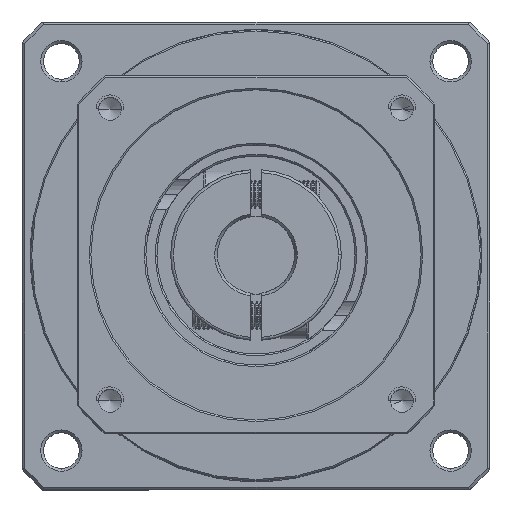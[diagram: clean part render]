
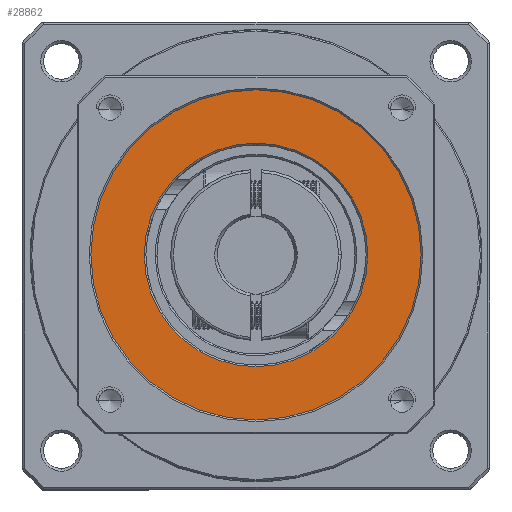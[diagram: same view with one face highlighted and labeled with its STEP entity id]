
A CAD part, top view. The second image highlights one B-rep face of the part: STEP entity #28862.
In plain terms, the highlighted planar face has unit normal (0, 0, 1).
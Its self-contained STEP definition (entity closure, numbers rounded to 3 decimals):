
#832 = VERTEX_POINT ( 'NONE', #49615 ) ;
#1617 = ORIENTED_EDGE ( 'NONE', *, *, #113908, .T. ) ;
#3975 = VERTEX_POINT ( 'NONE', #83340 ) ;
#9331 = EDGE_LOOP ( 'NONE', ( #56970, #97137 ) ) ;
#28862 = ADVANCED_FACE ( 'NONE', ( #65736, #41056 ), #73748, .T. ) ;
#31447 = DIRECTION ( 'NONE',  ( 0., 0., -1. ) ) ;
#33377 = DIRECTION ( 'NONE',  ( 0., 0., -1. ) ) ;
#37489 = AXIS2_PLACEMENT_3D ( 'NONE', #105164, #49682, #114390 ) ;
#38226 = AXIS2_PLACEMENT_3D ( 'NONE', #55397, #119958, #64690 ) ;
#41056 = FACE_OUTER_BOUND ( 'NONE', #115589, .T. ) ;
#46116 = CARTESIAN_POINT ( 'NONE',  ( -63.221, 21.659, 10.244 ) ) ;
#47156 = CIRCLE ( 'NONE', #92841, 20.3 ) ;
#49615 = CARTESIAN_POINT ( 'NONE',  ( -83.521, 21.659, 10.244 ) ) ;
#49682 = DIRECTION ( 'NONE',  ( 0., 0., 1. ) ) ;
#55397 = CARTESIAN_POINT ( 'NONE',  ( -63.221, 21.659, 10.244 ) ) ;
#55470 = DIRECTION ( 'NONE',  ( 1., 0., 0. ) ) ;
#56066 = EDGE_CURVE ( 'NONE', #832, #3975, #81583, .T. ) ;
#56970 = ORIENTED_EDGE ( 'NONE', *, *, #72230, .T. ) ;
#61620 = CARTESIAN_POINT ( 'NONE',  ( -33.221, 21.659, 10.244 ) ) ;
#64690 = DIRECTION ( 'NONE',  ( 1., 0., 0. ) ) ;
#65736 = FACE_BOUND ( 'NONE', #9331, .T. ) ;
#65933 = CIRCLE ( 'NONE', #38226, 30. ) ;
#72230 = EDGE_CURVE ( 'NONE', #3975, #832, #47156, .T. ) ;
#72881 = CIRCLE ( 'NONE', #37489, 30. ) ;
#73748 = PLANE ( 'NONE',  #115283 ) ;
#81583 = CIRCLE ( 'NONE', #98698, 20.3 ) ;
#83340 = CARTESIAN_POINT ( 'NONE',  ( -42.921, 21.659, 10.244 ) ) ;
#86295 = CARTESIAN_POINT ( 'NONE',  ( -93.221, 21.659, 10.244 ) ) ;
#87051 = CARTESIAN_POINT ( 'NONE',  ( -63.221, 21.659, 10.244 ) ) ;
#88969 = CARTESIAN_POINT ( 'NONE',  ( -63.221, 21.659, 10.244 ) ) ;
#92841 = AXIS2_PLACEMENT_3D ( 'NONE', #87051, #31447, #96325 ) ;
#96325 = DIRECTION ( 'NONE',  ( 1., 0., 0. ) ) ;
#97137 = ORIENTED_EDGE ( 'NONE', *, *, #56066, .T. ) ;
#98208 = DIRECTION ( 'NONE',  ( 1., 0., 0. ) ) ;
#98698 = AXIS2_PLACEMENT_3D ( 'NONE', #88969, #33377, #98208 ) ;
#103948 = VERTEX_POINT ( 'NONE', #86295 ) ;
#105164 = CARTESIAN_POINT ( 'NONE',  ( -63.221, 21.659, 10.244 ) ) ;
#108876 = EDGE_CURVE ( 'NONE', #119750, #103948, #72881, .T. ) ;
#110809 = DIRECTION ( 'NONE',  ( 0., 0., 1. ) ) ;
#113908 = EDGE_CURVE ( 'NONE', #103948, #119750, #65933, .T. ) ;
#114390 = DIRECTION ( 'NONE',  ( 1., 0., 0. ) ) ;
#115283 = AXIS2_PLACEMENT_3D ( 'NONE', #46116, #110809, #55470 ) ;
#115589 = EDGE_LOOP ( 'NONE', ( #116439, #1617 ) ) ;
#116439 = ORIENTED_EDGE ( 'NONE', *, *, #108876, .T. ) ;
#119750 = VERTEX_POINT ( 'NONE', #61620 ) ;
#119958 = DIRECTION ( 'NONE',  ( 0., 0., 1. ) ) ;
